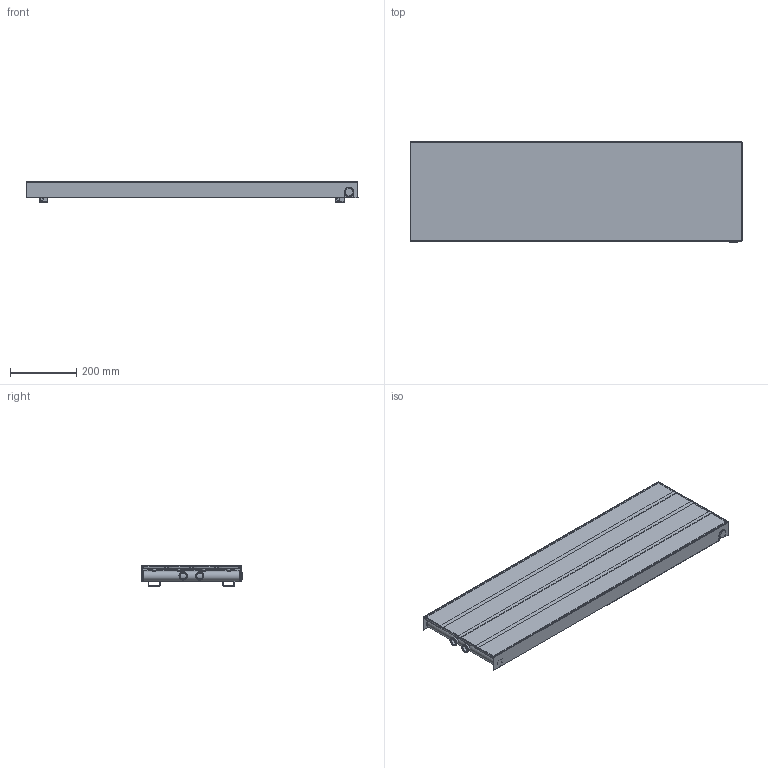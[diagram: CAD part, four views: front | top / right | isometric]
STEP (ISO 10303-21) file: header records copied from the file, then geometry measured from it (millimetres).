
FILE_DESCRIPTION(/* description */ (''),/* implementation_level */ '2;1');
FILE_NAME(/* name */ 'C:\Grzejniki\13DLUXRAD\pokojowe\NIAGARA\to\NIAGARA z osłoną w kolorze standardowym 1000x300.iam.stp',/* time_stamp */ '2016-06-28T17:34:03+02:00',/* author */ ('m.szydziak'),/* organization */ (''),/* preprocessor_version */ 'ST-DEVELOPER v16.5',/* originating_system */ 'Autodesk Inventor 2017',/* authorisation */ '');
FILE_SCHEMA (('AUTOMOTIVE_DESIGN { 1 0 10303 214 3 1 1 }'));
Length unit declared in the file: millimetre
Products named in the file (12): NIAGARA z osłoną w kolorze standa
rdowym 1000x300; NIAGARA 1000x300 osłona; NIAGARA 1000x295 ZDC; %%C30x1,5x295; 70x8x1,2x1004; michałek; ucho duze; ucho duze 2; poprzeczka 255; ZDC dzwonki; dzwonek G0,5inch; korek
Assembly tree (27 placements, depth 4):
  NIAGARA z osłoną w kolorze standa
rdowym 1000x300
    NIAGARA 1000x300 osłona
    NIAGARA 1000x295 ZDC
      %%C30x1,5x295  x2
      70x8x1,2x1004  x4
      michałek  x8
      ucho duze  x2
      ucho duze 2  x2
      poprzeczka 255  x3
      ZDC dzwonki
        dzwonek G0,5inch  x2
      korek
Bounding box: 1002 x 303.5 x 63.3 mm (x, y, z)
Volume: 1181630 mm3; surface area: 2169917.7 mm2
Topology: 25 solids, 25 shells, 381 faces, 869 edges, 540 vertices
Faces by surface type: plane 207, cylinder 138, sphere 32, cone 2, bspline 2
Full cylindrical faces by diameter (mm): 8 x8, 9 x8, 10 x16, 11.5 x8, 16 x2, 18.5 x2, 18.631 x6, 22.9 x2, 24 x1, 25.3 x2, 27 x2, 30 x2
Entity records: 5506 total; most frequent: CARTESIAN_POINT 1193, DIRECTION 887, ORIENTED_EDGE 746, EDGE_CURVE 373, AXIS2_PLACEMENT_3D 322, LINE 243, VECTOR 243, VERTEX_POINT 240
